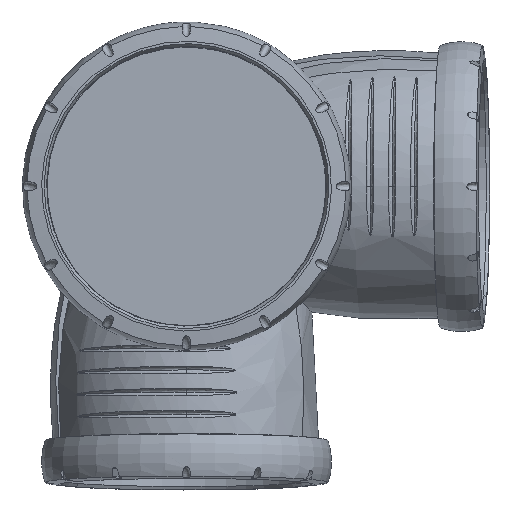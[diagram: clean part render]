
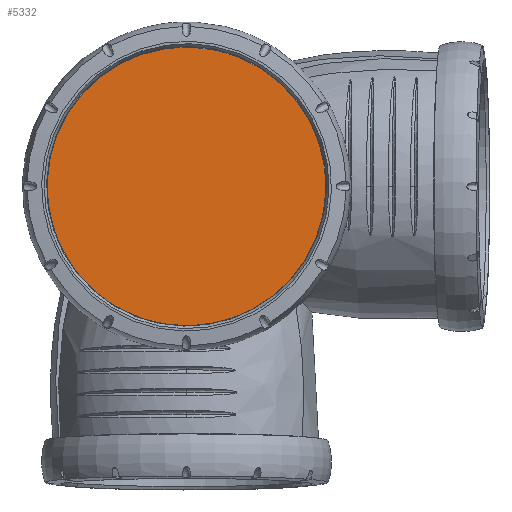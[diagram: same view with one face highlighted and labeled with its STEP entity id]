
A CAD part, top view. The second image highlights one B-rep face of the part: STEP entity #5332.
In plain terms, the highlighted planar face has unit normal (0, 0, 1).
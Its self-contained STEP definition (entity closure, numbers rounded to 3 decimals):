
#101=PLANE('',#5779);
#461=FACE_OUTER_BOUND('',#1275,.T.);
#892=CIRCLE('',#5771,63.);
#893=CIRCLE('',#5773,63.);
#1275=EDGE_LOOP('',(#4602,#4603));
#2227=VERTEX_POINT('',#17630);
#2228=VERTEX_POINT('',#17632);
#3018=EDGE_CURVE('',#2227,#2228,#892,.T.);
#3019=EDGE_CURVE('',#2228,#2227,#893,.T.);
#4602=ORIENTED_EDGE('',*,*,#3018,.T.);
#4603=ORIENTED_EDGE('',*,*,#3019,.T.);
#5332=ADVANCED_FACE('',(#461),#101,.T.);
#5771=AXIS2_PLACEMENT_3D('',#17634,#6691,#6692);
#5773=AXIS2_PLACEMENT_3D('',#17636,#6695,#6696);
#5779=AXIS2_PLACEMENT_3D('',#17646,#6709,#6710);
#6691=DIRECTION('center_axis',(0.,0.,
1.));
#6692=DIRECTION('ref_axis',(0.479,-0.878,0.));
#6695=DIRECTION('center_axis',(0.,0.,
1.));
#6696=DIRECTION('ref_axis',(-0.479,0.878,0.));
#6709=DIRECTION('center_axis',(0.,0.,
1.));
#6710=DIRECTION('ref_axis',(0.,-1.,0.));
#17630=CARTESIAN_POINT('',(-30.204,55.288,199.));
#17632=CARTESIAN_POINT('',(30.204,-55.288,199.));
#17634=CARTESIAN_POINT('Origin',(0.001,0.,
199.));
#17636=CARTESIAN_POINT('Origin',(-0.001,0.,
199.));
#17646=CARTESIAN_POINT('Origin',(-63.825,63.949,199.));
